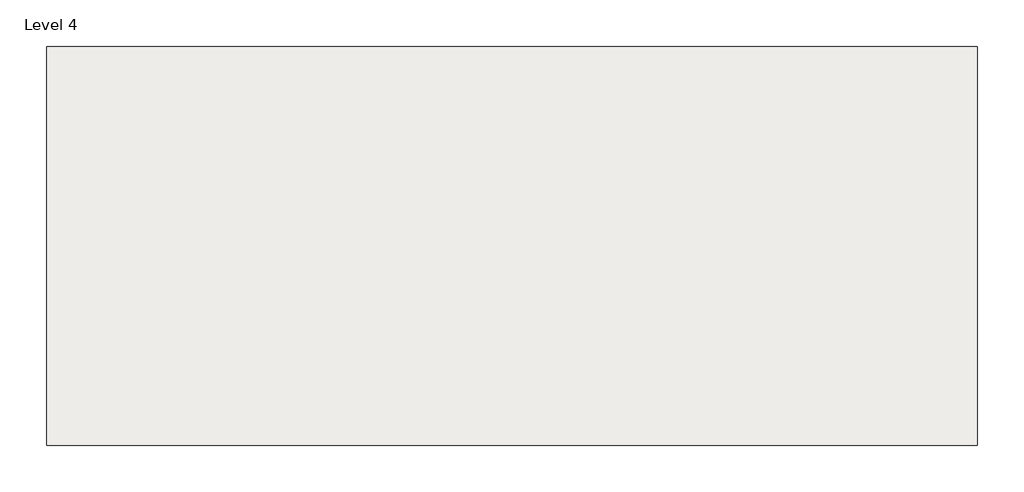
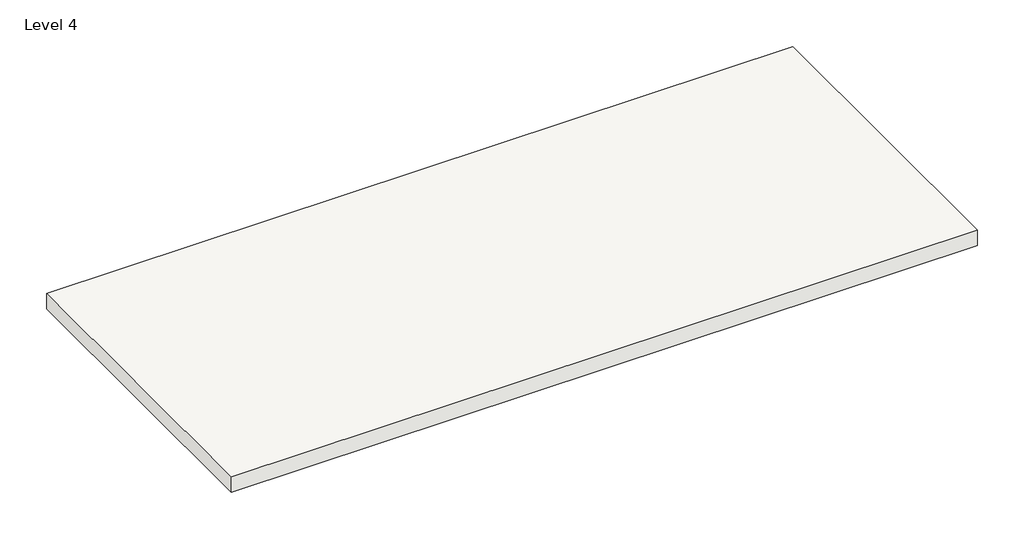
# One storey: 1 roof.
"""IFC4 building model written with IfcOpenShell, lengths in millimetres."""

from ifc_helpers import new_model, si_unit, frame, origin, place, context, project, spatial, polyline, outline, extrude, element, save

model = new_model("IFC4")

# Units and contexts
model_context = context("Model", 3, world=origin())
ifc_project = project(units=[si_unit("LENGTHUNIT", "METRE", prefix="MILLI")], contexts=[model_context])

# Site, building, storey
site = spatial("IfcSite", under=ifc_project)
building = spatial("IfcBuilding", under=site)
storey = spatial("IfcBuildingStorey", under=building, Name="Level 4", Elevation=15200.0)

# Roof
placement = place(None, origin())
element("IfcRoof", 1, ObjectType="Roof_Flat-4Felt-150Ins-50Scr-150Conc-12Plr", at=placement, inside=storey, context=model_context, shape_type="SweptSolid", body=[
    extrude(outline(polyline([(12526.612776, -787.7844268), (-3888.387224, -787.7844268), (-3888.387224, 6252.2155732), (12526.612776, 6252.2155732), (12526.612776, -787.7844268)])), frame((0.0, 0.0, 15200.0), z_axis=(0.0, 0.0, 1.0), x_axis=(1.0, 0.0, 0.0)), (0.0, 0.0, 1.0), 366.5),
])

save(model, "model.ifc")
